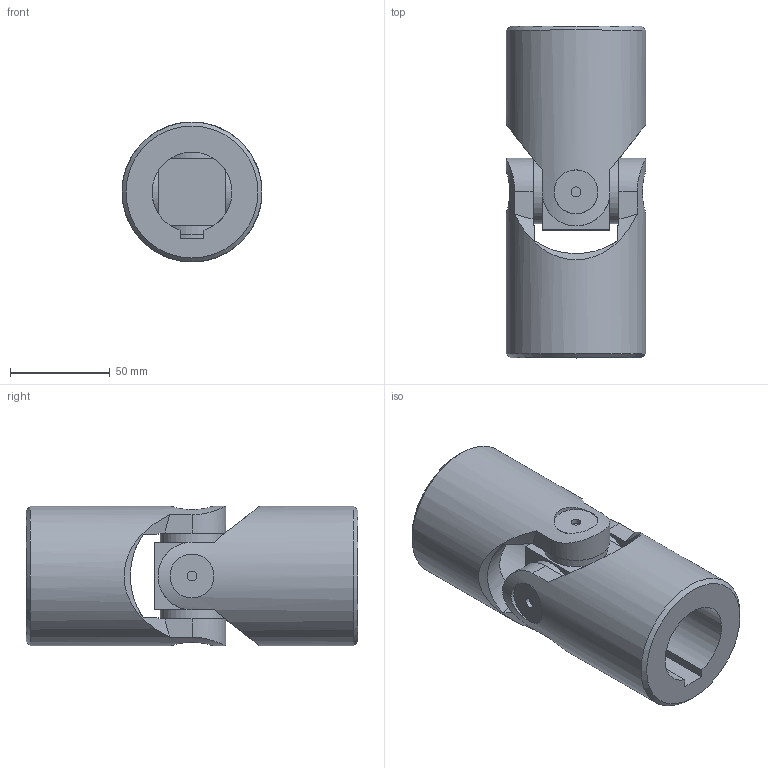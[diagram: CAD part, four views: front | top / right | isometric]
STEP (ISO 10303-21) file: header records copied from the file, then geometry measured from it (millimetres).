
FILE_DESCRIPTION(/* description */ (''),/* implementation_level */ '2;1');
FILE_NAME(/* name */ '\\SRV2016\Societa\Stefano\Disegni 3D\Dis. Clienti\0000Catalogo 3D\01Singoli G-GB\Ø70_8GB-1C_SGBS401C.stp',/* time_stamp */ '2021-11-10T15:07:07+01:00',/* author */ ('acquisti'),/* organization */ (''),/* preprocessor_version */ 'ST-DEVELOPER v15.6',/* originating_system */ 'Autodesk Inventor 2015',/* authorisation */ '');
FILE_SCHEMA (('AUTOMOTIVE_DESIGN { 1 0 10303 214 3 1 1 }'));
Length unit declared in the file: millimetre
Products named in the file (4): 7G SFE; 8GB MOS; 8GB MOC; Assieme10
Assembly tree (3 placements, depth 2):
  Assieme10
    7G SFE
    8GB MOS
    8GB MOC
Bounding box: 70 x 166 x 70 mm (x, y, z)
Volume: 405287.7 mm3; surface area: 71990 mm2
Topology: 3 solids, 3 shells, 71 faces, 170 edges, 115 vertices
Faces by surface type: plane 39, cylinder 20, cone 10, torus 2
Full cylindrical faces by diameter (mm): 5 x4, 22 x4, 32 x4, 40 x1, 70 x2
Entity records: 2507 total; most frequent: CARTESIAN_POINT 909, DIRECTION 303, ORIENTED_EDGE 300, EDGE_CURVE 150, AXIS2_PLACEMENT_3D 130, VERTEX_POINT 114, EDGE_LOOP 104, FACE_OUTER_BOUND 71
